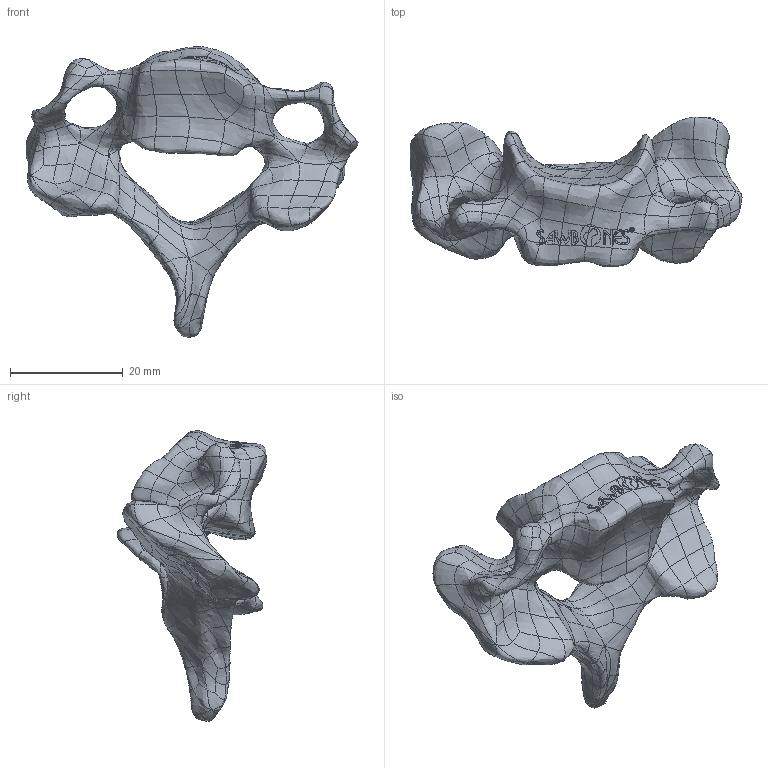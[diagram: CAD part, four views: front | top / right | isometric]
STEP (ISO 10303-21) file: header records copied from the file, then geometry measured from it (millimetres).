
FILE_DESCRIPTION (( 'STEP AP203' ), '1' );
FILE_NAME ('1377-40-6.STEP', '2025-06-12T20:41:50', ( '' ), ( '' ), 'SwSTEP 2.0', 'SolidWorks 2024', '' );
FILE_SCHEMA (( 'CONFIG_CONTROL_DESIGN' ));
Products named in the file (1): 1377-40-6
Bounding box: 58.97 x 26.63 x 51.64 mm (x, y, z)
Volume: 12609.2 mm3; surface area: 5754.6 mm2
Topology: 1 solids, 1 shells, 754 faces, 1685 edges, 935 vertices
Faces by surface type: bspline 754
Entity records: 80402 total; most frequent: CARTESIAN_POINT 69611, ORIENTED_EDGE 3370, EDGE_CURVE 1685, B_SPLINE_CURVE_WITH_KNOTS 1685, VERTEX_POINT 935, EDGE_LOOP 762, B_SPLINE_SURFACE_WITH_KNOTS 754, FACE_OUTER_BOUND 754
